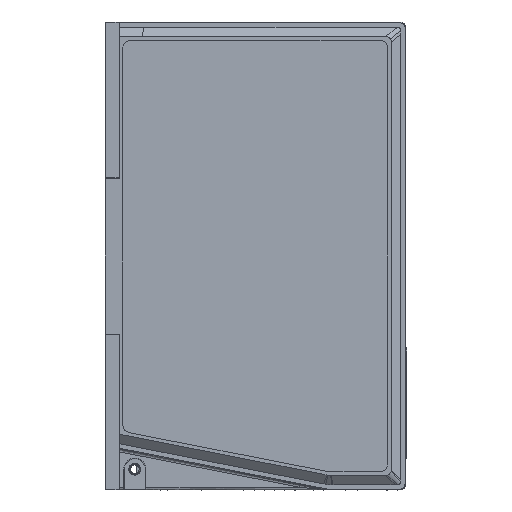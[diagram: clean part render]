
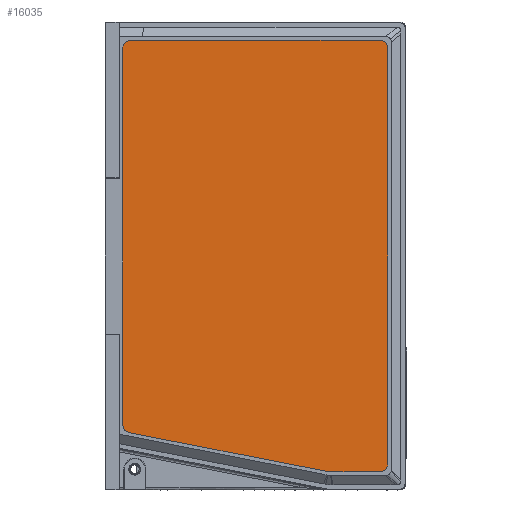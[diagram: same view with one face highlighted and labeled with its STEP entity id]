
A CAD part, left-side view. The second image highlights one B-rep face of the part: STEP entity #16035.
In plain terms, the highlighted planar face has unit normal (-1, 0, 0).
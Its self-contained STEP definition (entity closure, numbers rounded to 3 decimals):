
#1396=(
BOUNDED_CURVE()
B_SPLINE_CURVE(2,(#165272,#165273,#165274),.UNSPECIFIED.,.F.,.F.)
B_SPLINE_CURVE_WITH_KNOTS((3,3),(-14.339,-10.),.UNSPECIFIED.)
CURVE()
GEOMETRIC_REPRESENTATION_ITEM()
RATIONAL_B_SPLINE_CURVE((1.,0.772,1.))
REPRESENTATION_ITEM('')
);
#1397=(
BOUNDED_CURVE()
B_SPLINE_CURVE(2,(#165279,#165280,#165281),.UNSPECIFIED.,.F.,.F.)
B_SPLINE_CURVE_WITH_KNOTS((3,3),(-4.674,-4.519),
 .UNSPECIFIED.)
CURVE()
GEOMETRIC_REPRESENTATION_ITEM()
RATIONAL_B_SPLINE_CURVE((1.,0.995,1.))
REPRESENTATION_ITEM('')
);
#1398=(
BOUNDED_CURVE()
B_SPLINE_CURVE(2,(#165282,#165283,#165284),.UNSPECIFIED.,.F.,.F.)
B_SPLINE_CURVE_WITH_KNOTS((3,3),(-10.,-5.),.UNSPECIFIED.)
CURVE()
GEOMETRIC_REPRESENTATION_ITEM()
RATIONAL_B_SPLINE_CURVE((1.,0.707,1.))
REPRESENTATION_ITEM('')
);
#1399=(
BOUNDED_CURVE()
B_SPLINE_CURVE(2,(#165285,#165286,#165287),.UNSPECIFIED.,.F.,.F.)
B_SPLINE_CURVE_WITH_KNOTS((3,3),(-15.,-10.),.UNSPECIFIED.)
CURVE()
GEOMETRIC_REPRESENTATION_ITEM()
RATIONAL_B_SPLINE_CURVE((1.,0.707,1.))
REPRESENTATION_ITEM('')
);
#1400=(
BOUNDED_CURVE()
B_SPLINE_CURVE(2,(#165288,#165289,#165290),.UNSPECIFIED.,.F.,.F.)
B_SPLINE_CURVE_WITH_KNOTS((3,3),(-10.,-5.),.UNSPECIFIED.)
CURVE()
GEOMETRIC_REPRESENTATION_ITEM()
RATIONAL_B_SPLINE_CURVE((1.,0.707,1.))
REPRESENTATION_ITEM('')
);
#16035=ADVANCED_FACE('',(#19640),#108242,.T.);
#19640=FACE_OUTER_BOUND('',#23350,.T.);
#23350=EDGE_LOOP('',(#38972,#38973,#38974,#38975,#38976,#38977,#38978,#38979,
#38980,#38981));
#38972=ORIENTED_EDGE('',*,*,#59778,.F.);
#38973=ORIENTED_EDGE('',*,*,#59777,.F.);
#38974=ORIENTED_EDGE('',*,*,#59781,.F.);
#38975=ORIENTED_EDGE('',*,*,#59776,.F.);
#38976=ORIENTED_EDGE('',*,*,#59782,.F.);
#38977=ORIENTED_EDGE('',*,*,#59775,.F.);
#38978=ORIENTED_EDGE('',*,*,#59783,.F.);
#38979=ORIENTED_EDGE('',*,*,#59780,.F.);
#38980=ORIENTED_EDGE('',*,*,#59784,.F.);
#38981=ORIENTED_EDGE('',*,*,#59779,.F.);
#59775=EDGE_CURVE('',#99475,#99476,#80000,.T.);
#59776=EDGE_CURVE('',#99477,#99478,#80001,.T.);
#59777=EDGE_CURVE('',#99479,#99480,#80002,.T.);
#59778=EDGE_CURVE('',#99480,#99481,#1396,.T.);
#59779=EDGE_CURVE('',#99481,#99482,#80003,.T.);
#59780=EDGE_CURVE('',#99483,#99484,#80004,.T.);
#59781=EDGE_CURVE('',#99478,#99479,#1397,.T.);
#59782=EDGE_CURVE('',#99476,#99477,#1398,.T.);
#59783=EDGE_CURVE('',#99484,#99475,#1399,.T.);
#59784=EDGE_CURVE('',#99482,#99483,#1400,.T.);
#80000=B_SPLINE_CURVE_WITH_KNOTS('',1,(#165266,#165267),.UNSPECIFIED.,.F.,
 .F.,(2,2),(0.,119.6),.UNSPECIFIED.);
#80001=B_SPLINE_CURVE_WITH_KNOTS('',1,(#165268,#165269),.UNSPECIFIED.,.F.,
 .F.,(2,2),(0.,14.217),.UNSPECIFIED.);
#80002=B_SPLINE_CURVE_WITH_KNOTS('',1,(#165270,#165271),.UNSPECIFIED.,.F.,
 .F.,(2,2),(0.,58.709),.UNSPECIFIED.);
#80003=B_SPLINE_CURVE_WITH_KNOTS('',1,(#165275,#165276),.UNSPECIFIED.,.F.,
 .F.,(2,2),(0.,108.329),.UNSPECIFIED.);
#80004=B_SPLINE_CURVE_WITH_KNOTS('',1,(#165277,#165278),.UNSPECIFIED.,.F.,
 .F.,(2,2),(0.,71.5),.UNSPECIFIED.);
#99475=VERTEX_POINT('',#165256);
#99476=VERTEX_POINT('',#165257);
#99477=VERTEX_POINT('',#165258);
#99478=VERTEX_POINT('',#165259);
#99479=VERTEX_POINT('',#165260);
#99480=VERTEX_POINT('',#165261);
#99481=VERTEX_POINT('',#165262);
#99482=VERTEX_POINT('',#165263);
#99483=VERTEX_POINT('',#165264);
#99484=VERTEX_POINT('',#165265);
#108242=PLANE('',#111302);
#111302=AXIS2_PLACEMENT_3D('',#165255,#114345,$);
#114345=DIRECTION('',(-1.,0.,0.));
#165255=CARTESIAN_POINT('',(348.858,-323.329,603.334));
#165256=CARTESIAN_POINT('',(348.858,-315.619,588.314));
#165257=CARTESIAN_POINT('',(348.858,-315.619,468.714));
#165258=CARTESIAN_POINT('',(348.858,-313.119,466.214));
#165259=CARTESIAN_POINT('',(348.858,-298.902,466.214));
#165260=CARTESIAN_POINT('',(348.858,-298.748,466.229));
#165261=CARTESIAN_POINT('',(348.858,-241.138,477.531));
#165262=CARTESIAN_POINT('',(348.858,-239.119,479.985));
#165263=CARTESIAN_POINT('',(348.858,-239.119,588.314));
#165264=CARTESIAN_POINT('',(348.858,-241.619,590.814));
#165265=CARTESIAN_POINT('',(348.858,-313.119,590.814));
#165266=CARTESIAN_POINT('',(348.858,-315.619,588.314));
#165267=CARTESIAN_POINT('',(348.858,-315.619,468.714));
#165268=CARTESIAN_POINT('',(348.858,-313.119,466.214));
#165269=CARTESIAN_POINT('',(348.858,-298.902,466.214));
#165270=CARTESIAN_POINT('',(348.858,-298.748,466.229));
#165271=CARTESIAN_POINT('',(348.858,-241.138,477.531));
#165272=CARTESIAN_POINT('',(348.858,-241.138,477.531));
#165273=CARTESIAN_POINT('',(348.858,-239.119,477.927));
#165274=CARTESIAN_POINT('',(348.858,-239.119,479.985));
#165275=CARTESIAN_POINT('',(348.858,-239.119,479.985));
#165276=CARTESIAN_POINT('',(348.858,-239.119,588.314));
#165277=CARTESIAN_POINT('',(348.858,-241.619,590.814));
#165278=CARTESIAN_POINT('',(348.858,-313.119,590.814));
#165279=CARTESIAN_POINT('',(348.858,-298.902,466.214));
#165280=CARTESIAN_POINT('',(348.858,-298.824,466.214));
#165281=CARTESIAN_POINT('',(348.858,-298.748,466.229));
#165282=CARTESIAN_POINT('',(348.858,-315.619,468.714));
#165283=CARTESIAN_POINT('',(348.858,-315.619,466.214));
#165284=CARTESIAN_POINT('',(348.858,-313.119,466.214));
#165285=CARTESIAN_POINT('',(348.858,-313.119,590.814));
#165286=CARTESIAN_POINT('',(348.858,-315.619,590.814));
#165287=CARTESIAN_POINT('',(348.858,-315.619,588.314));
#165288=CARTESIAN_POINT('',(348.858,-239.119,588.314));
#165289=CARTESIAN_POINT('',(348.858,-239.119,590.814));
#165290=CARTESIAN_POINT('',(348.858,-241.619,590.814));
